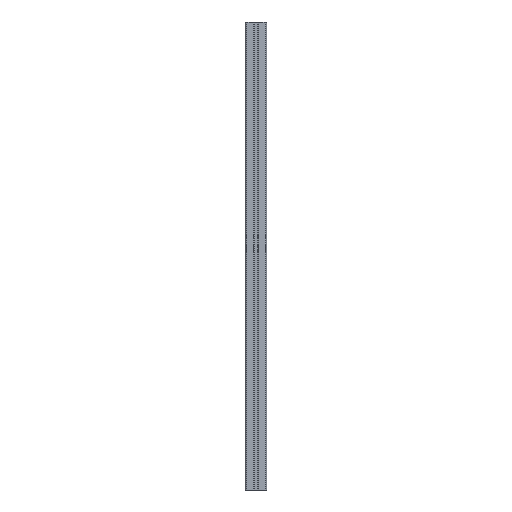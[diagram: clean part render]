
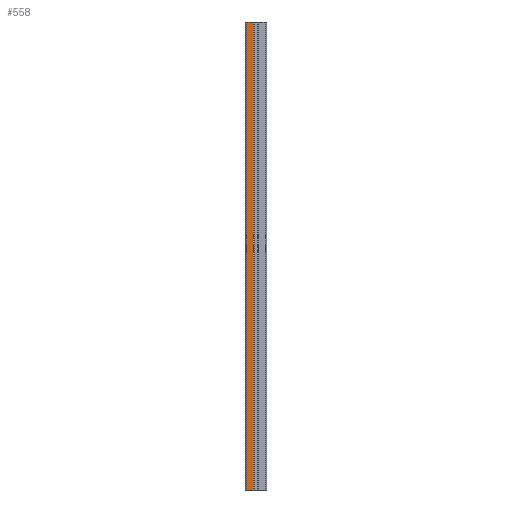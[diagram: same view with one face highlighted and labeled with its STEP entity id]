
A CAD part, front view. The second image highlights one B-rep face of the part: STEP entity #558.
In plain terms, the highlighted planar face has unit normal (0, -1, 0).
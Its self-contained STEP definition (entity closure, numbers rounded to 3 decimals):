
#3 = DIRECTION ( 'NONE',  ( 1., 0., 0. ) ) ;
#57 = EDGE_LOOP ( 'NONE', ( #4760, #2481, #727, #855 ) ) ;
#58 = CARTESIAN_POINT ( 'NONE',  ( -19.5, -22.5, 0. ) ) ;
#175 = CARTESIAN_POINT ( 'NONE',  ( -19.5, -22.5, -1000. ) ) ;
#300 = LINE ( 'NONE', #175, #3153 ) ;
#558 = ADVANCED_FACE ( 'NONE', ( #4295 ), #4011, .T. ) ;
#561 = CARTESIAN_POINT ( 'NONE',  ( -5.5, -22.5, -1000. ) ) ;
#640 = AXIS2_PLACEMENT_3D ( 'NONE', #4793, #1700, #4340 ) ;
#648 = EDGE_CURVE ( 'NONE', #3010, #4095, #952, .T. ) ;
#727 = ORIENTED_EDGE ( 'NONE', *, *, #2891, .T. ) ;
#831 = LINE ( 'NONE', #917, #4597 ) ;
#855 = ORIENTED_EDGE ( 'NONE', *, *, #4198, .T. ) ;
#917 = CARTESIAN_POINT ( 'NONE',  ( -5.5, -22.5, -1000. ) ) ;
#952 = LINE ( 'NONE', #58, #1698 ) ;
#1284 = DIRECTION ( 'NONE',  ( 0., 0., 1. ) ) ;
#1698 = VECTOR ( 'NONE', #4079, 1000. ) ;
#1700 = DIRECTION ( 'NONE',  ( 0., -1., 0. ) ) ;
#1981 = EDGE_CURVE ( 'NONE', #3239, #3010, #300, .T. ) ;
#2481 = ORIENTED_EDGE ( 'NONE', *, *, #1981, .F. ) ;
#2581 = VERTEX_POINT ( 'NONE', #561 ) ;
#2891 = EDGE_CURVE ( 'NONE', #3239, #2581, #3342, .T. ) ;
#3010 = VERTEX_POINT ( 'NONE', #4699 ) ;
#3153 = VECTOR ( 'NONE', #3889, 1000. ) ;
#3190 = CARTESIAN_POINT ( 'NONE',  ( -19.5, -22.5, -1000. ) ) ;
#3222 = VECTOR ( 'NONE', #3, 1000. ) ;
#3239 = VERTEX_POINT ( 'NONE', #3190 ) ;
#3342 = LINE ( 'NONE', #4001, #3222 ) ;
#3889 = DIRECTION ( 'NONE',  ( 0., 0., 1. ) ) ;
#4001 = CARTESIAN_POINT ( 'NONE',  ( -19.5, -22.5, -1000. ) ) ;
#4011 = PLANE ( 'NONE',  #640 ) ;
#4079 = DIRECTION ( 'NONE',  ( 1., 0., 0. ) ) ;
#4095 = VERTEX_POINT ( 'NONE', #4215 ) ;
#4198 = EDGE_CURVE ( 'NONE', #2581, #4095, #831, .T. ) ;
#4215 = CARTESIAN_POINT ( 'NONE',  ( -5.5, -22.5, 0. ) ) ;
#4295 = FACE_OUTER_BOUND ( 'NONE', #57, .T. ) ;
#4340 = DIRECTION ( 'NONE',  ( 1., 0., 0. ) ) ;
#4597 = VECTOR ( 'NONE', #1284, 1000. ) ;
#4699 = CARTESIAN_POINT ( 'NONE',  ( -19.5, -22.5, 0. ) ) ;
#4760 = ORIENTED_EDGE ( 'NONE', *, *, #648, .F. ) ;
#4793 = CARTESIAN_POINT ( 'NONE',  ( -19.5, -22.5, -1000. ) ) ;
